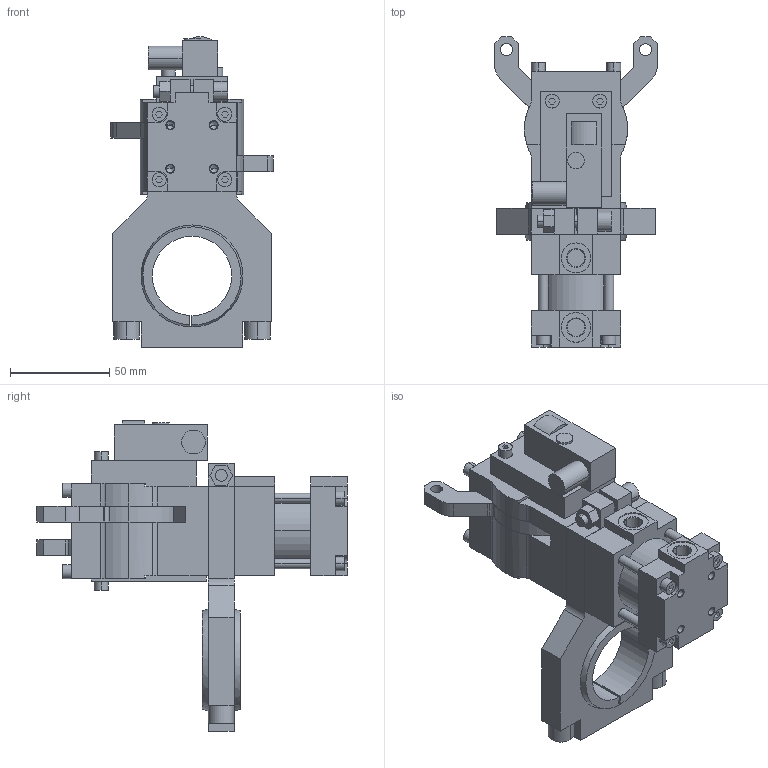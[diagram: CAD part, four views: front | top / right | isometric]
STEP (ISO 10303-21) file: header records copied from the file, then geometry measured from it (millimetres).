
FILE_DESCRIPTION (( 'STEP AP214' ), '1' );
FILE_NAME ('b32_bxsx_pla___x_b40.STEP', '2018-05-08T12:53:57', ( 'vepadmin' ), ( 'Hewlett-Packard Company' ), 'SwSTEP 2.0', 'SolidWorks 2018', '' );
FILE_SCHEMA (( 'AUTOMOTIVE_DESIGN' ));
Length unit declared in the file: millimetre
Products named in the file (9): calotta_sferica_40_b32; gruppo_cilindro_b32; riparo_micro_b32; blocchetto_p&f_90; scatola_micro_b32; attacco_b40_b32; leva_b32b; gruppo_montante_b32b; b32_bxsx_pla___x_b40
Assembly tree (9 placements, depth 2):
  b32_bxsx_pla___x_b40
    gruppo_montante_b32b
    leva_b32b  x2
    attacco_b40_b32
    scatola_micro_b32
    blocchetto_p&f_90
    riparo_micro_b32
    gruppo_cilindro_b32
    calotta_sferica_40_b32
Bounding box: 82 x 156.5 x 156.6 mm (x, y, z)
Volume: 375750.9 mm3; surface area: 103887.9 mm2
Topology: 9 solids, 9 shells, 502 faces, 1289 edges, 841 vertices
Faces by surface type: plane 319, cylinder 157, cone 22, sphere 4
Entity records: 14587 total; most frequent: DIRECTION 2481, CARTESIAN_POINT 2460, ORIENTED_EDGE 2384, EDGE_CURVE 1192, LINE 875, VECTOR 875, AXIS2_PLACEMENT_3D 803, VERTEX_POINT 782
